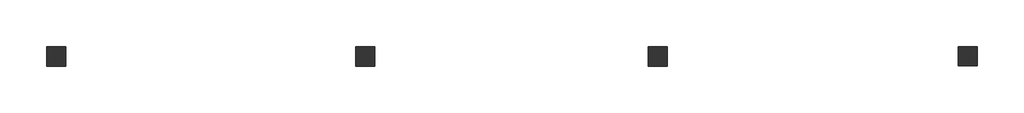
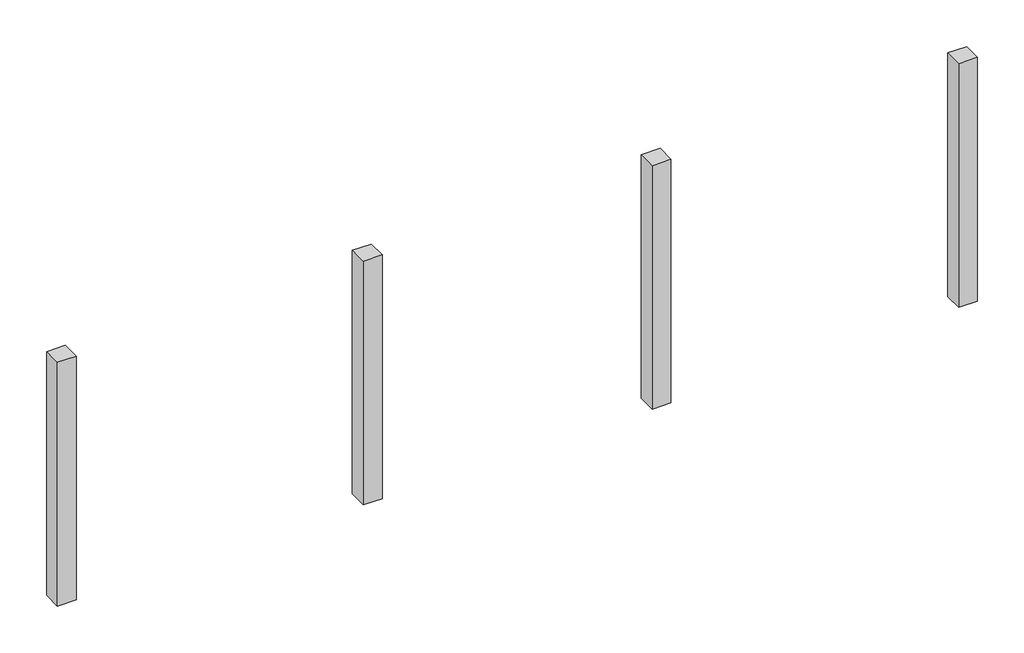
# One storey: 4 columns.
"""IFC4 building model written with IfcOpenShell, lengths in millimetres."""

from ifc_helpers import new_model, si_unit, origin, place, context, project, spatial, transform, mapped, element, save
from components import poteau_bois_191_x_191mm_65af8a0f

model = new_model("IFC4")

# Units and contexts
model_context = context("Model", 3, world=origin())
ifc_project = project(units=[si_unit("LENGTHUNIT", "METRE", prefix="MILLI")], contexts=[model_context])

# Site, building, storey
site = spatial("IfcSite", under=ifc_project)
building = spatial("IfcBuilding", under=site)
storey = spatial("IfcBuildingStorey", under=building, Name="2 - RdC", Elevation=3000.0)

# Columns
placement = place(None, origin())
poteau_bois_191_x_191mm_shape = poteau_bois_191_x_191mm_65af8a0f(model_context)
element("IfcColumn", 1, ObjectType="Poteau Bois : 191 x 191mm", at=placement, inside=storey, context=model_context, shape_type="MappedRepresentation", body=[
    mapped(poteau_bois_191_x_191mm_shape, transform((6941.7853199, 5628.3158898, 0.0), x_axis=(1.0, 0.0, 0.0), y_axis=(0.0, 1.0, 0.0), z_axis=(0.0, 0.0, 1.0))),
])
element("IfcColumn", 2, ObjectType="Poteau Bois : 191 x 191mm", at=placement, inside=storey, context=model_context, shape_type="MappedRepresentation", body=[
    mapped(poteau_bois_191_x_191mm_shape, transform((931.7853199, 5623.8158898, 0.0), x_axis=(1.0, 0.0, 0.0), y_axis=(0.0, 1.0, 0.0), z_axis=(0.0, 0.0, 1.0))),
])
element("IfcColumn", 3, ObjectType="Poteau Bois : 191 x 191mm", at=placement, inside=storey, context=model_context, shape_type="MappedRepresentation", body=[
    mapped(poteau_bois_191_x_191mm_shape, transform((3846.2853199, 5623.8158898, 0.0), x_axis=(1.0, 0.0, 0.0), y_axis=(0.0, 1.0, 0.0), z_axis=(0.0, 0.0, 1.0))),
])
element("IfcColumn", 4, ObjectType="Poteau Bois : 191 x 191mm", at=placement, inside=storey, context=model_context, shape_type="MappedRepresentation", body=[
    mapped(poteau_bois_191_x_191mm_shape, transform((-2153.7146801, 5623.8158898, 0.0), x_axis=(1.0, 0.0, 0.0), y_axis=(0.0, 1.0, 0.0), z_axis=(0.0, 0.0, 1.0))),
])

save(model, "model.ifc")
